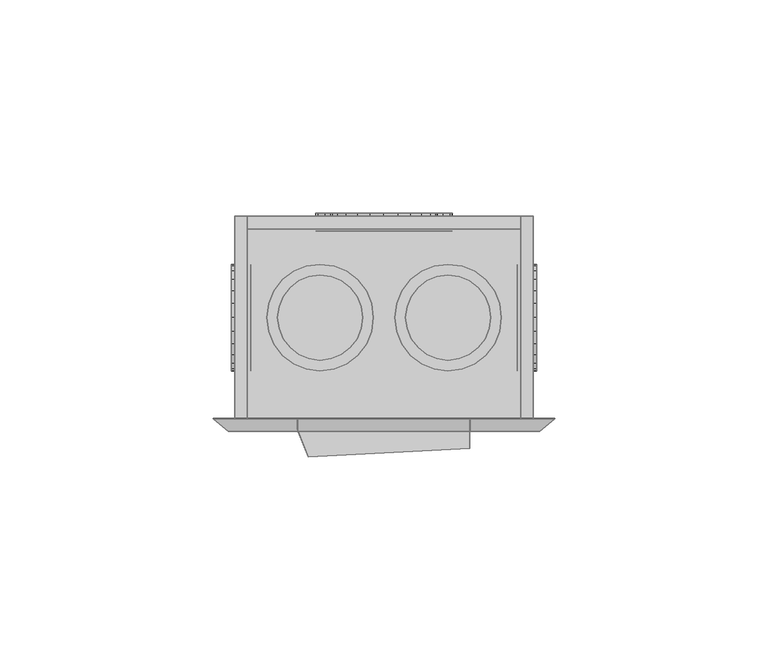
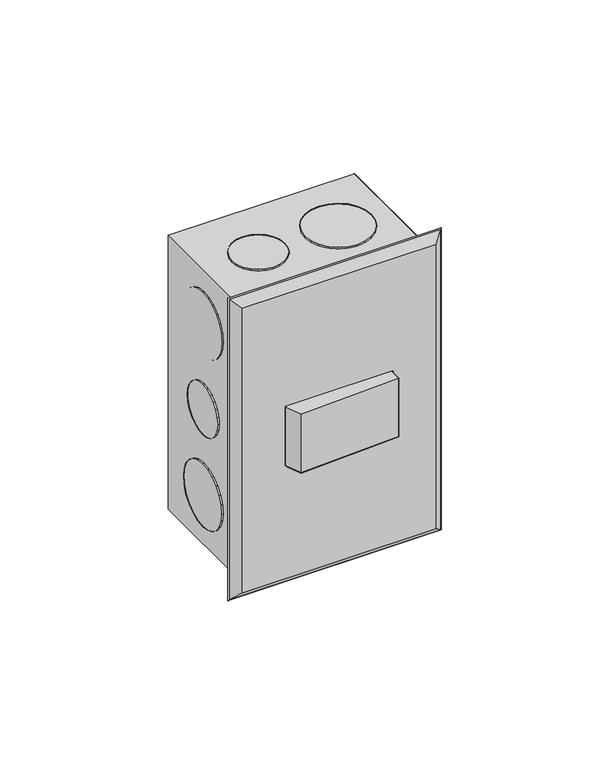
"""IFC4 building model written with IfcOpenShell, lengths in millimetres: proxy geometry,  210707 :  210707."""

from ifc_helpers import new_model, si_unit, origin, place, context, project, spatial, triangles, source, transform, mapped, element, save


def generic_models_2aa8a5d4(model_context):
    return source(origin(), model_context, "Body", "Tessellation", [
        triangles([(11129.999707, 26298.699408, 1254.3000378), (11126.9998901, 26298.699408, 1148.7000154), (11129.999707, 26298.699408, 1145.6999805), (11126.9998901, 26298.699408, 1251.2999302), (11060.0004913, 26298.699408, 1254.3000378), (11063.0003082, 26298.699408, 1251.2999302), (11060.0004913, 26298.699408, 1145.6999805), (11063.0003082, 26298.699408, 1148.7000154), (11126.9998901, 26346.2011597, 1251.2999302), (11126.9998901, 26346.2011597, 1148.7000154), (11060.0004913, 26346.2011597, 1254.3000378), (11060.0004913, 26346.2011597, 1145.6999805), (11063.0003082, 26346.2011597, 1251.2999302), (11129.999707, 26346.2011597, 1145.6999805), (11063.0003082, 26346.2011597, 1148.7000154), (11129.999707, 26346.2011597, 1254.3000378), (11126.9998901, 26343.1990173, 1251.2999302), (11063.0003082, 26343.1990173, 1148.7000154), (11126.9998901, 26343.1990173, 1148.7000154), (11063.0003082, 26343.1990173, 1251.2999302), (11108.8998322, 26342.6990479, 1191.9999887), (11103.0001923, 26342.6990479, 1186.0999855), (11106.2999908, 26342.6990479, 1188.6999722), (11110.4997345, 26342.6990479, 1195.8999687), (11099.2004242, 26342.6990479, 1184.5000105), (11110.999704, 26342.6990479, 1200.0000092), (11094.9995178, 26342.6990479, 1183.9999683), (11110.4997345, 26342.6990479, 1204.0999769), (11090.8997681, 26342.6990479, 1184.5000105), (11108.8998322, 26342.6990479, 1208.0000296), (11087.0000061, 26342.6990479, 1186.0999855), (11106.2999908, 26342.6990479, 1211.2999735), (11083.7002075, 26342.6990479, 1188.6999722), (11103.0001923, 26342.6990479, 1213.9000328), (11081.2003601, 26342.6990479, 1191.9999887), (11099.2004242, 26342.6990479, 1215.5000078), (11079.6004578, 26342.6990479, 1195.8999687), (11094.9995178, 26342.6990479, 1215.9999773), (11079.0004944, 26342.6990479, 1200.0000092), (11090.8997681, 26342.6990479, 1215.5000078), (11079.6004578, 26342.6990479, 1204.0999769), (11087.0000061, 26342.6990479, 1213.9000328), (11081.2003601, 26342.6990479, 1208.0000296), (11083.7002075, 26342.6990479, 1211.2999735), (11090.8997681, 26346.9011169, 1184.5000105), (11094.9995178, 26346.9011169, 1183.9999683), (11099.2004242, 26346.9011169, 1184.5000105), (11103.0001923, 26346.9011169, 1186.0999855), (11106.2999908, 26346.9011169, 1188.6999722), (11108.8998322, 26346.9011169, 1191.9999887), (11110.4997345, 26346.9011169, 1195.8999687), (11110.999704, 26346.9011169, 1200.0000092), (11110.4997345, 26346.9011169, 1204.0999769), (11108.8998322, 26346.9011169, 1208.0000296), (11106.2999908, 26346.9011169, 1211.2999735), (11103.0001923, 26346.9011169, 1213.9000328), (11099.2004242, 26346.9011169, 1215.5000078), (11094.9995178, 26346.9011169, 1215.9999773), (11090.8997681, 26346.9011169, 1215.5000078), (11087.0000061, 26346.9011169, 1213.9000328), (11083.7002075, 26346.9011169, 1211.2999735), (11081.2003601, 26346.9011169, 1208.0000296), (11079.6004578, 26346.9011169, 1204.0999769), (11079.0004944, 26346.9011169, 1200.0000092), (11079.6004578, 26346.9011169, 1195.8999687), (11081.2003601, 26346.9011169, 1191.9999887), (11083.7002075, 26346.9011169, 1188.6999722), (11087.0000061, 26346.9011169, 1186.0999855), (11105.9000153, 26342.6990479, 1227.8000565), (11101.300296, 26342.6990479, 1223.2000465), (11103.9001373, 26342.6990479, 1225.2000698), (11107.099942, 26342.6990479, 1230.8000187), (11098.3004791, 26342.6990479, 1221.8999805), (11107.4999176, 26342.6990479, 1233.9999687), (11094.9995178, 26342.6990479, 1221.500005), (11107.099942, 26342.6990479, 1237.2000641), (11091.7997131, 26342.6990479, 1221.8999805), (11105.9000153, 26342.6990479, 1240.3000202), (11088.7998962, 26342.6990479, 1223.2000465), (11103.9001373, 26342.6990479, 1242.800013), (11086.2000549, 26342.6990479, 1225.2000698), (11084.200177, 26342.6990479, 1227.8000565), (11101.300296, 26342.6990479, 1244.8000362), (11098.3004791, 26342.6990479, 1246.0999569), (11083.0002502, 26342.6990479, 1230.8000187), (11094.9995178, 26342.6990479, 1246.4999325), (11082.5002808, 26342.6990479, 1233.9999687), (11091.7997131, 26342.6990479, 1246.0999569), (11083.0002502, 26342.6990479, 1237.2000641), (11084.200177, 26342.6990479, 1240.3000202), (11088.7998962, 26342.6990479, 1244.8000362), (11086.2000549, 26342.6990479, 1242.800013), (11083.0002502, 26346.9011169, 1230.8000187), (11084.200177, 26346.9011169, 1227.8000565), (11086.2000549, 26346.9011169, 1225.2000698), (11088.7998962, 26346.9011169, 1223.2000465), (11091.7997131, 26346.9011169, 1221.8999805), (11094.9995178, 26346.9011169, 1221.500005), (11098.3004791, 26346.9011169, 1221.8999805), (11101.300296, 26346.9011169, 1223.2000465), (11103.9001373, 26346.9011169, 1225.2000698), (11105.9000153, 26346.9011169, 1227.8000565), (11107.099942, 26346.9011169, 1230.8000187), (11107.4999176, 26346.9011169, 1233.9999687), (11107.099942, 26346.9011169, 1237.2000641), (11105.9000153, 26346.9011169, 1240.3000202), (11103.9001373, 26346.9011169, 1242.800013), (11101.300296, 26346.9011169, 1244.8000362), (11098.3004791, 26346.9011169, 1246.0999569), (11094.9995178, 26346.9011169, 1246.4999325), (11091.7997131, 26346.9011169, 1246.0999569), (11088.7998962, 26346.9011169, 1244.8000362), (11086.2000549, 26346.9011169, 1242.800013), (11084.200177, 26346.9011169, 1240.3000202), (11083.0002502, 26346.9011169, 1237.2000641), (11082.5002808, 26346.9011169, 1233.9999687), (11101.300296, 26346.9011169, 1155.1999821), (11105.9000153, 26346.9011169, 1159.6999981), (11103.9001373, 26346.9011169, 1157.2000053), (11098.3004791, 26346.9011169, 1153.8999887), (11107.099942, 26346.9011169, 1162.8000269), (11094.9995178, 26346.9011169, 1153.5000132), (11107.4999176, 26346.9011169, 1165.9999769), (11091.7997131, 26346.9011169, 1153.8999887), (11107.099942, 26346.9011169, 1169.1999996), (11088.7998962, 26346.9011169, 1155.1999821), (11105.9000153, 26346.9011169, 1172.2000345), (11086.2000549, 26346.9011169, 1157.2000053), (11103.9001373, 26346.9011169, 1174.8000212), (11084.200177, 26346.9011169, 1159.6999981), (11101.300296, 26346.9011169, 1176.7999718), (11083.0002502, 26346.9011169, 1162.8000269), (11098.3004791, 26346.9011169, 1178.0999651), (11094.9995178, 26346.9011169, 1178.5000134), (11082.5002808, 26346.9011169, 1165.9999769), (11083.0002502, 26346.9011169, 1169.1999996), (11091.7997131, 26346.9011169, 1178.0999651), (11084.200177, 26346.9011169, 1172.2000345), (11088.7998962, 26346.9011169, 1176.7999718), (11086.2000549, 26346.9011169, 1174.8000212), (11098.3004791, 26342.6990479, 1178.0999651), (11094.9995178, 26342.6990479, 1178.5000134), (11101.300296, 26342.6990479, 1176.7999718), (11103.9001373, 26342.6990479, 1174.8000212), (11105.9000153, 26342.6990479, 1172.2000345), (11107.099942, 26342.6990479, 1169.1999996), (11107.4999176, 26342.6990479, 1165.9999769), (11107.099942, 26342.6990479, 1162.8000269), (11105.9000153, 26342.6990479, 1159.6999981), (11103.9001373, 26342.6990479, 1157.2000053), (11101.300296, 26342.6990479, 1155.1999821), (11098.3004791, 26342.6990479, 1153.8999887), (11094.9995178, 26342.6990479, 1153.5000132), (11091.7997131, 26342.6990479, 1153.8999887), (11088.7998962, 26342.6990479, 1155.1999821), (11086.2000549, 26342.6990479, 1157.2000053), (11084.200177, 26342.6990479, 1159.6999981), (11083.0002502, 26342.6990479, 1162.8000269), (11082.5002808, 26342.6990479, 1165.9999769), (11083.0002502, 26342.6990479, 1169.1999996), (11084.200177, 26342.6990479, 1172.2000345), (11086.2000549, 26342.6990479, 1174.8000212), (11088.7998962, 26342.6990479, 1176.7999718), (11091.7997131, 26342.6990479, 1178.0999651), (11126.199939, 26327.3999817, 1191.3000315), (11126.199939, 26331.0997559, 1195.0000237), (11126.199939, 26329.4998535, 1192.9000065), (11126.199939, 26332.0996948, 1197.4000225), (11126.199939, 26325.0001282, 1190.3000198), (11126.199939, 26332.3996765, 1200.0000092), (11126.199939, 26322.4002869, 1189.9999655), (11126.199939, 26319.9004395, 1190.3000198), (11126.199939, 26332.0996948, 1202.5999958), (11126.199939, 26331.0997559, 1204.9999947), (11126.199939, 26317.400592, 1191.3000315), (11126.199939, 26329.4998535, 1207.1000118), (11126.199939, 26315.4007141, 1192.9000065), (11126.199939, 26313.8008118, 1195.0000237), (11126.199939, 26327.3999817, 1208.6999868), (11126.199939, 26312.8008728, 1197.4000225), (11126.199939, 26325.0001282, 1209.6999985), (11126.199939, 26312.4008972, 1200.0000092), (11126.199939, 26322.4002869, 1209.9999802), (11126.199939, 26312.8008728, 1202.5999958), (11126.199939, 26319.9004395, 1209.6999985), (11126.199939, 26317.400592, 1208.6999868), (11126.199939, 26313.8008118, 1204.9999947), (11126.199939, 26315.4007141, 1207.1000118), (11130.7996582, 26322.4002869, 1189.9999655), (11130.7996582, 26325.0001282, 1190.3000198), (11130.7996582, 26319.9004395, 1190.3000198), (11130.7996582, 26317.400592, 1191.3000315), (11130.7996582, 26315.4007141, 1192.9000065), (11130.7996582, 26313.8008118, 1195.0000237), (11130.7996582, 26312.8008728, 1197.4000225), (11130.7996582, 26312.4008972, 1200.0000092), (11130.7996582, 26312.8008728, 1202.5999958), (11130.7996582, 26313.8008118, 1204.9999947), (11130.7996582, 26315.4007141, 1207.1000118), (11130.7996582, 26317.400592, 1208.6999868), (11130.7996582, 26319.9004395, 1209.6999985), (11130.7996582, 26322.4002869, 1209.9999802), (11130.7996582, 26325.0001282, 1209.6999985), (11130.7996582, 26327.3999817, 1208.6999868), (11130.7996582, 26329.4998535, 1207.1000118), (11130.7996582, 26331.0997559, 1204.9999947), (11130.7996582, 26332.0996948, 1202.5999958), (11130.7996582, 26332.3996765, 1200.0000092), (11130.7996582, 26332.0996948, 1197.4000225), (11130.7996582, 26331.0997559, 1195.0000237), (11130.7996582, 26329.4998535, 1192.9000065), (11130.7996582, 26327.3999817, 1191.3000315), (11126.199939, 26328.6999023, 1223.2000465), (11126.199939, 26333.2996216, 1227.8000565), (11126.199939, 26331.2997437, 1225.2000698), (11126.199939, 26325.7000854, 1221.8999805), (11126.199939, 26334.4995483, 1230.8000187), (11126.199939, 26334.8995239, 1233.9999687), (11126.199939, 26322.4002869, 1221.500005), (11126.199939, 26319.2004822, 1221.8999805), (11126.199939, 26334.4995483, 1237.2000641), (11126.199939, 26333.2996216, 1240.3000202), (11126.199939, 26316.2006653, 1223.2000465), (11126.199939, 26313.600824, 1225.2000698), (11126.199939, 26331.2997437, 1242.800013), (11126.199939, 26311.600946, 1227.8000565), (11126.199939, 26328.6999023, 1244.8000362), (11126.199939, 26310.4010193, 1230.8000187), (11126.199939, 26325.7000854, 1246.0999569), (11126.199939, 26309.9010498, 1233.9999687), (11126.199939, 26322.4002869, 1246.4999325), (11126.199939, 26310.4010193, 1237.2000641), (11126.199939, 26319.2004822, 1246.0999569), (11126.199939, 26311.600946, 1240.3000202), (11126.199939, 26316.2006653, 1244.8000362), (11126.199939, 26313.600824, 1242.800013), (11130.7996582, 26322.4002869, 1221.500005), (11130.7996582, 26325.7000854, 1221.8999805), (11130.7996582, 26319.2004822, 1221.8999805), (11130.7996582, 26316.2006653, 1223.2000465), (11130.7996582, 26313.600824, 1225.2000698), (11130.7996582, 26311.600946, 1227.8000565), (11130.7996582, 26310.4010193, 1230.8000187), (11130.7996582, 26309.9010498, 1233.9999687), (11130.7996582, 26310.4010193, 1237.2000641), (11130.7996582, 26311.600946, 1240.3000202), (11130.7996582, 26313.600824, 1242.800013), (11130.7996582, 26316.2006653, 1244.8000362), (11130.7996582, 26319.2004822, 1246.0999569), (11130.7996582, 26322.4002869, 1246.4999325), (11130.7996582, 26325.7000854, 1246.0999569), (11130.7996582, 26328.6999023, 1244.8000362), (11130.7996582, 26331.2997437, 1242.800013), (11130.7996582, 26333.2996216, 1240.3000202), (11130.7996582, 26334.4995483, 1237.2000641), (11130.7996582, 26334.8995239, 1233.9999687), (11130.7996582, 26334.4995483, 1230.8000187), (11130.7996582, 26333.2996216, 1227.8000565), (11130.7996582, 26331.2997437, 1225.2000698), (11130.7996582, 26328.6999023, 1223.2000465), (11130.7996582, 26333.2996216, 1159.6999981), (11130.7996582, 26328.6999023, 1155.1999821), (11130.7996582, 26331.2997437, 1157.2000053), (11130.7996582, 26334.4995483, 1162.8000269), (11130.7996582, 26325.7000854, 1153.8999887), (11130.7996582, 26334.8995239, 1165.9999769), (11130.7996582, 26322.4002869, 1153.5000132), (11130.7996582, 26334.4995483, 1169.1999996), (11130.7996582, 26319.2004822, 1153.8999887), (11130.7996582, 26333.2996216, 1172.2000345), (11130.7996582, 26316.2006653, 1155.1999821), (11130.7996582, 26331.2997437, 1174.8000212), (11130.7996582, 26313.600824, 1157.2000053), (11130.7996582, 26328.6999023, 1176.7999718), (11130.7996582, 26311.600946, 1159.6999981), (11130.7996582, 26325.7000854, 1178.0999651), (11130.7996582, 26310.4010193, 1162.8000269), (11130.7996582, 26322.4002869, 1178.5000134), (11130.7996582, 26309.9010498, 1165.9999769), (11130.7996582, 26319.2004822, 1178.0999651), (11130.7996582, 26310.4010193, 1169.1999996), (11130.7996582, 26316.2006653, 1176.7999718), (11130.7996582, 26311.600946, 1172.2000345), (11130.7996582, 26313.600824, 1174.8000212), (11126.199939, 26325.7000854, 1178.0999651), (11126.199939, 26322.4002869, 1178.5000134), (11126.199939, 26319.2004822, 1178.0999651), (11126.199939, 26316.2006653, 1176.7999718), (11126.199939, 26313.600824, 1174.8000212), (11126.199939, 26311.600946, 1172.2000345), (11126.199939, 26310.4010193, 1169.1999996), (11126.199939, 26309.9010498, 1165.9999769), (11126.199939, 26310.4010193, 1162.8000269), (11126.199939, 26311.600946, 1159.6999981), (11126.199939, 26313.600824, 1157.2000053), (11126.199939, 26316.2006653, 1155.1999821), (11126.199939, 26319.2004822, 1153.8999887), (11126.199939, 26322.4002869, 1153.5000132), (11126.199939, 26325.7000854, 1153.8999887), (11126.199939, 26328.6999023, 1155.1999821), (11126.199939, 26331.2997437, 1157.2000053), (11126.199939, 26333.2996216, 1159.6999981), (11126.199939, 26334.4995483, 1162.8000269), (11126.199939, 26334.8995239, 1165.9999769), (11126.199939, 26334.4995483, 1169.1999996), (11126.199939, 26333.2996216, 1172.2000345), (11126.199939, 26331.2997437, 1174.8000212), (11126.199939, 26328.6999023, 1176.7999718), (11063.8002594, 26331.0997559, 1195.0000237), (11063.8002594, 26327.3999817, 1191.3000315), (11063.8002594, 26329.4998535, 1192.9000065), (11063.8002594, 26332.0996948, 1197.4000225), (11063.8002594, 26325.0001282, 1190.3000198), (11063.8002594, 26332.3996765, 1200.0000092), (11063.8002594, 26322.4002869, 1189.9999655), (11063.8002594, 26332.0996948, 1202.5999958), (11063.8002594, 26319.9004395, 1190.3000198), (11063.8002594, 26331.0997559, 1204.9999947), (11063.8002594, 26317.400592, 1191.3000315), (11063.8002594, 26329.4998535, 1207.1000118), (11063.8002594, 26315.4007141, 1192.9000065), (11063.8002594, 26327.3999817, 1208.6999868), (11063.8002594, 26313.8008118, 1195.0000237), (11063.8002594, 26325.0001282, 1209.6999985), (11063.8002594, 26312.8008728, 1197.4000225), (11063.8002594, 26312.4008972, 1200.0000092), (11063.8002594, 26322.4002869, 1209.9999802), (11063.8002594, 26319.9004395, 1209.6999985), (11063.8002594, 26312.8008728, 1202.5999958), (11063.8002594, 26317.400592, 1208.6999868), (11063.8002594, 26313.8008118, 1204.9999947), (11063.8002594, 26315.4007141, 1207.1000118), (11059.2005402, 26325.0001282, 1209.6999985), (11059.2005402, 26322.4002869, 1209.9999802), (11059.2005402, 26319.9004395, 1209.6999985), (11059.2005402, 26317.400592, 1208.6999868), (11059.2005402, 26315.4007141, 1207.1000118), (11059.2005402, 26313.8008118, 1204.9999947), (11059.2005402, 26312.8008728, 1202.5999958), (11059.2005402, 26312.4008972, 1200.0000092), (11059.2005402, 26312.8008728, 1197.4000225), (11059.2005402, 26313.8008118, 1195.0000237), (11059.2005402, 26315.4007141, 1192.9000065), (11059.2005402, 26317.400592, 1191.3000315), (11059.2005402, 26319.9004395, 1190.3000198), (11059.2005402, 26322.4002869, 1189.9999655), (11059.2005402, 26325.0001282, 1190.3000198), (11059.2005402, 26327.3999817, 1191.3000315), (11059.2005402, 26329.4998535, 1192.9000065), (11059.2005402, 26331.0997559, 1195.0000237), (11059.2005402, 26332.0996948, 1197.4000225), (11059.2005402, 26332.3996765, 1200.0000092), (11059.2005402, 26332.0996948, 1202.5999958), (11059.2005402, 26331.0997559, 1204.9999947), (11059.2005402, 26329.4998535, 1207.1000118), (11059.2005402, 26327.3999817, 1208.6999868), (11063.8002594, 26333.2996216, 1159.6999981), (11063.8002594, 26328.6999023, 1155.1999821), (11063.8002594, 26331.2997437, 1157.2000053), (11063.8002594, 26334.4995483, 1162.8000269), (11063.8002594, 26325.7000854, 1153.8999887), (11063.8002594, 26334.8995239, 1165.9999769), (11063.8002594, 26322.4002869, 1153.5000132), (11063.8002594, 26334.4995483, 1169.1999996), (11063.8002594, 26319.2004822, 1153.8999887), (11063.8002594, 26333.2996216, 1172.2000345), (11063.8002594, 26316.2006653, 1155.1999821), (11063.8002594, 26331.2997437, 1174.8000212), (11063.8002594, 26313.600824, 1157.2000053), (11063.8002594, 26328.6999023, 1176.7999718), (11063.8002594, 26311.600946, 1159.6999981), (11063.8002594, 26325.7000854, 1178.0999651), (11063.8002594, 26310.4010193, 1162.8000269), (11063.8002594, 26322.4002869, 1178.5000134), (11063.8002594, 26309.9010498, 1165.9999769), (11063.8002594, 26319.2004822, 1178.0999651), (11063.8002594, 26310.4010193, 1169.1999996), (11063.8002594, 26316.2006653, 1176.7999718), (11063.8002594, 26311.600946, 1172.2000345), (11063.8002594, 26313.600824, 1174.8000212), (11059.2005402, 26325.7000854, 1178.0999651), (11059.2005402, 26322.4002869, 1178.5000134), (11059.2005402, 26319.2004822, 1178.0999651), (11059.2005402, 26316.2006653, 1176.7999718), (11059.2005402, 26313.600824, 1174.8000212), (11059.2005402, 26311.600946, 1172.2000345), (11059.2005402, 26310.4010193, 1169.1999996), (11059.2005402, 26309.9010498, 1165.9999769), (11059.2005402, 26310.4010193, 1162.8000269), (11059.2005402, 26311.600946, 1159.6999981), (11059.2005402, 26313.600824, 1157.2000053), (11059.2005402, 26316.2006653, 1155.1999821), (11059.2005402, 26319.2004822, 1153.8999887), (11059.2005402, 26322.4002869, 1153.5000132), (11059.2005402, 26325.7000854, 1153.8999887), (11059.2005402, 26328.6999023, 1155.1999821), (11059.2005402, 26331.2997437, 1157.2000053), (11059.2005402, 26333.2996216, 1159.6999981), (11059.2005402, 26334.4995483, 1162.8000269), (11059.2005402, 26334.8995239, 1165.9999769), (11059.2005402, 26334.4995483, 1169.1999996), (11059.2005402, 26333.2996216, 1172.2000345), (11059.2005402, 26331.2997437, 1174.8000212), (11059.2005402, 26328.6999023, 1176.7999718), (11059.2005402, 26328.6999023, 1223.2000465), (11059.2005402, 26333.2996216, 1227.8000565), (11059.2005402, 26331.2997437, 1225.2000698), (11059.2005402, 26325.7000854, 1221.8999805), (11059.2005402, 26334.4995483, 1230.8000187), (11059.2005402, 26334.8995239, 1233.9999687), (11059.2005402, 26322.4002869, 1221.500005), (11059.2005402, 26319.2004822, 1221.8999805), (11059.2005402, 26334.4995483, 1237.2000641), (11059.2005402, 26333.2996216, 1240.3000202), (11059.2005402, 26316.2006653, 1223.2000465), (11059.2005402, 26313.600824, 1225.2000698), (11059.2005402, 26331.2997437, 1242.800013), (11059.2005402, 26311.600946, 1227.8000565), (11059.2005402, 26328.6999023, 1244.8000362), (11059.2005402, 26310.4010193, 1230.8000187), (11059.2005402, 26325.7000854, 1246.0999569), (11059.2005402, 26309.9010498, 1233.9999687), (11059.2005402, 26322.4002869, 1246.4999325), (11059.2005402, 26310.4010193, 1237.2000641), (11059.2005402, 26319.2004822, 1246.0999569), (11059.2005402, 26311.600946, 1240.3000202), (11059.2005402, 26316.2006653, 1244.8000362), (11059.2005402, 26313.600824, 1242.800013), (11063.8002594, 26322.4002869, 1221.500005), (11063.8002594, 26325.7000854, 1221.8999805), (11063.8002594, 26319.2004822, 1221.8999805), (11063.8002594, 26316.2006653, 1223.2000465), (11063.8002594, 26313.600824, 1225.2000698), (11063.8002594, 26311.600946, 1227.8000565), (11063.8002594, 26310.4010193, 1230.8000187), (11063.8002594, 26309.9010498, 1233.9999687), (11063.8002594, 26310.4010193, 1237.2000641), (11063.8002594, 26311.600946, 1240.3000202), (11063.8002594, 26313.600824, 1242.800013), (11063.8002594, 26316.2006653, 1244.8000362), (11063.8002594, 26319.2004822, 1246.0999569), (11063.8002594, 26322.4002869, 1246.4999325), (11063.8002594, 26325.7000854, 1246.0999569), (11063.8002594, 26328.6999023, 1244.8000362), (11063.8002594, 26331.2997437, 1242.800013), (11063.8002594, 26333.2996216, 1240.3000202), (11063.8002594, 26334.4995483, 1237.2000641), (11063.8002594, 26334.8995239, 1233.9999687), (11063.8002594, 26334.4995483, 1230.8000187), (11063.8002594, 26333.2996216, 1227.8000565), (11063.8002594, 26331.2997437, 1225.2000698), (11063.8002594, 26328.6999023, 1223.2000465), (11120.9002625, 26328.6999023, 1250.9999485), (11116.3005432, 26333.2996216, 1250.9999485), (11118.9003845, 26331.2997437, 1250.9999485), (11122.1001892, 26325.7000854, 1250.9999485), (11113.2995636, 26334.4995483, 1250.9999485), (11109.999765, 26334.8995239, 1250.9999485), (11122.5001648, 26322.4002869, 1250.9999485), (11122.1001892, 26319.2004822, 1250.9999485), (11106.7999603, 26334.4995483, 1250.9999485), (11103.8001434, 26333.2996216, 1250.9999485), (11120.9002625, 26316.2006653, 1250.9999485), (11118.9003845, 26313.600824, 1250.9999485), (11101.2003021, 26331.2997437, 1250.9999485), (11099.2004242, 26328.6999023, 1250.9999485), (11116.3005432, 26311.600946, 1250.9999485), (11113.2995636, 26310.4010193, 1250.9999485), (11098.0004974, 26325.7000854, 1250.9999485), (11109.999765, 26309.9010498, 1250.9999485), (11097.500528, 26322.4002869, 1250.9999485), (11106.7999603, 26310.4010193, 1250.9999485), (11098.0004974, 26319.2004822, 1250.9999485), (11099.2004242, 26316.2006653, 1250.9999485), (11103.8001434, 26311.600946, 1250.9999485), (11101.2003021, 26313.600824, 1250.9999485), (11109.999765, 26334.8995239, 1255.1999828), (11106.7999603, 26334.4995483, 1255.1999828), (11113.2995636, 26334.4995483, 1255.1999828), (11116.3005432, 26333.2996216, 1255.1999828), (11118.9003845, 26331.2997437, 1255.1999828), (11120.9002625, 26328.6999023, 1255.1999828), (11122.1001892, 26325.7000854, 1255.1999828), (11122.5001648, 26322.4002869, 1255.1999828), (11122.1001892, 26319.2004822, 1255.1999828), (11120.9002625, 26316.2006653, 1255.1999828), (11118.9003845, 26313.600824, 1255.1999828), (11116.3005432, 26311.600946, 1255.1999828), (11113.2995636, 26310.4010193, 1255.1999828), (11109.999765, 26309.9010498, 1255.1999828), (11106.7999603, 26310.4010193, 1255.1999828), (11103.8001434, 26311.600946, 1255.1999828), (11101.2003021, 26313.600824, 1255.1999828), (11099.2004242, 26316.2006653, 1255.1999828), (11098.0004974, 26319.2004822, 1255.1999828), (11097.500528, 26322.4002869, 1255.1999828), (11098.0004974, 26325.7000854, 1255.1999828), (11099.2004242, 26328.6999023, 1255.1999828), (11101.2003021, 26331.2997437, 1255.1999828), (11103.8001434, 26333.2996216, 1255.1999828), (11088.6999023, 26327.3999817, 1250.9999485), (11085.0001282, 26331.0997559, 1250.9999485), (11087.1, 26329.4998535, 1250.9999485), (11082.6002747, 26332.0996948, 1250.9999485), (11089.6998413, 26325.0001282, 1250.9999485), (11080.0004333, 26332.3996765, 1250.9999485), (11089.999823, 26322.4002869, 1250.9999485), (11089.6998413, 26319.9004395, 1250.9999485), (11077.3994293, 26332.0996948, 1250.9999485), (11074.9995758, 26331.0997559, 1250.9999485), (11088.6999023, 26317.400592, 1250.9999485), (11072.9996979, 26329.4998535, 1250.9999485), (11087.1, 26315.4007141, 1250.9999485), (11085.0001282, 26313.8008118, 1250.9999485), (11071.3997955, 26327.3999817, 1250.9999485), (11070.3998566, 26325.0001282, 1250.9999485), (11082.6002747, 26312.8008728, 1250.9999485), (11080.0004333, 26312.4008972, 1250.9999485), (11069.999881, 26322.4002869, 1250.9999485), (11077.3994293, 26312.8008728, 1250.9999485), (11070.3998566, 26319.9004395, 1250.9999485), (11074.9995758, 26313.8008118, 1250.9999485), (11071.3997955, 26317.400592, 1250.9999485), (11072.9996979, 26315.4007141, 1250.9999485), (11077.3994293, 26332.0996948, 1255.1999828), (11074.9995758, 26331.0997559, 1255.1999828), (11080.0004333, 26332.3996765, 1255.1999828), (11082.6002747, 26332.0996948, 1255.1999828), (11085.0001282, 26331.0997559, 1255.1999828), (11087.1, 26329.4998535, 1255.1999828), (11088.6999023, 26327.3999817, 1255.1999828), (11089.6998413, 26325.0001282, 1255.1999828), (11089.999823, 26322.4002869, 1255.1999828), (11089.6998413, 26319.9004395, 1255.1999828), (11088.6999023, 26317.400592, 1255.1999828), (11087.1, 26315.4007141, 1255.1999828), (11085.0001282, 26313.8008118, 1255.1999828), (11082.6002747, 26312.8008728, 1255.1999828), (11080.0004333, 26312.4008972, 1255.1999828), (11077.3994293, 26312.8008728, 1255.1999828), (11074.9995758, 26313.8008118, 1255.1999828), (11072.9996979, 26315.4007141, 1255.1999828), (11071.3997955, 26317.400592, 1255.1999828), (11070.3998566, 26319.9004395, 1255.1999828), (11069.999881, 26322.4002869, 1255.1999828), (11070.3998566, 26325.0001282, 1255.1999828), (11071.3997955, 26327.3999817, 1255.1999828), (11072.9996979, 26329.4998535, 1255.1999828), (11118.7003967, 26327.3999817, 1144.8000355), (11114.9994598, 26331.0997559, 1144.8000355), (11117.1004944, 26329.4998535, 1144.8000355), (11112.5996063, 26332.0996948, 1144.8000355), (11119.7003357, 26325.0001282, 1144.8000355), (11109.999765, 26332.3996765, 1144.8000355), (11120.0003174, 26322.4002869, 1144.8000355), (11119.7003357, 26319.9004395, 1144.8000355), (11107.3999237, 26332.0996948, 1144.8000355), (11105.0000702, 26331.0997559, 1144.8000355), (11118.7003967, 26317.400592, 1144.8000355), (11103.0001923, 26329.4998535, 1144.8000355), (11117.1004944, 26315.4007141, 1144.8000355), (11114.9994598, 26313.8008118, 1144.8000355), (11101.4002899, 26327.3999817, 1144.8000355), (11100.400351, 26325.0001282, 1144.8000355), (11112.5996063, 26312.8008728, 1144.8000355), (11109.999765, 26312.4008972, 1144.8000355), (11100.0003754, 26322.4002869, 1144.8000355), (11107.3999237, 26312.8008728, 1144.8000355), (11100.400351, 26319.9004395, 1144.8000355), (11105.0000702, 26313.8008118, 1144.8000355), (11101.4002899, 26317.400592, 1144.8000355), (11103.0001923, 26315.4007141, 1144.8000355), (11112.5996063, 26332.0996948, 1149.099991), (11109.999765, 26332.3996765, 1149.099991), (11114.9994598, 26331.0997559, 1149.099991), (11117.1004944, 26329.4998535, 1149.099991), (11118.7003967, 26327.3999817, 1149.099991), (11119.7003357, 26325.0001282, 1149.099991), (11120.0003174, 26322.4002869, 1149.099991), (11119.7003357, 26319.9004395, 1149.099991), (11118.7003967, 26317.400592, 1149.099991), (11117.1004944, 26315.4007141, 1149.099991), (11114.9994598, 26313.8008118, 1149.099991), (11112.5996063, 26312.8008728, 1149.099991), (11109.999765, 26312.4008972, 1149.099991), (11107.3999237, 26312.8008728, 1149.099991), (11105.0000702, 26313.8008118, 1149.099991), (11103.0001923, 26315.4007141, 1149.099991), (11101.4002899, 26317.400592, 1149.099991), (11100.400351, 26319.9004395, 1149.099991), (11100.0003754, 26322.4002869, 1149.099991), (11100.400351, 26325.0001282, 1149.099991), (11101.4002899, 26327.3999817, 1149.099991), (11103.0001923, 26329.4998535, 1149.099991), (11105.0000702, 26331.0997559, 1149.099991), (11107.3999237, 26332.0996948, 1149.099991), (11090.8997681, 26328.6999023, 1144.8000355), (11086.3000488, 26333.2996216, 1144.8000355), (11088.8998901, 26331.2997437, 1144.8000355), (11092.0996948, 26325.7000854, 1144.8000355), (11083.3002319, 26334.4995483, 1144.8000355), (11080.0004333, 26334.8995239, 1144.8000355), (11092.4996704, 26322.4002869, 1144.8000355), (11092.0996948, 26319.2004822, 1144.8000355), (11076.7994659, 26334.4995483, 1144.8000355), (11073.799649, 26333.2996216, 1144.8000355), (11090.8997681, 26316.2006653, 1144.8000355), (11088.8998901, 26313.600824, 1144.8000355), (11071.1998077, 26331.2997437, 1144.8000355), (11069.1999298, 26328.6999023, 1144.8000355), (11086.3000488, 26311.600946, 1144.8000355), (11083.3002319, 26310.4010193, 1144.8000355), (11068.0000031, 26325.7000854, 1144.8000355), (11080.0004333, 26309.9010498, 1144.8000355), (11067.5000336, 26322.4002869, 1144.8000355), (11076.7994659, 26310.4010193, 1144.8000355), (11068.0000031, 26319.2004822, 1144.8000355), (11069.1999298, 26316.2006653, 1144.8000355), (11073.799649, 26311.600946, 1144.8000355), (11071.1998077, 26313.600824, 1144.8000355), (11076.7994659, 26334.4995483, 1149.099991), (11073.799649, 26333.2996216, 1149.099991), (11080.0004333, 26334.8995239, 1149.099991), (11083.3002319, 26334.4995483, 1149.099991), (11086.3000488, 26333.2996216, 1149.099991), (11088.8998901, 26331.2997437, 1149.099991), (11090.8997681, 26328.6999023, 1149.099991), (11092.0996948, 26325.7000854, 1149.099991), (11092.4996704, 26322.4002869, 1149.099991), (11092.0996948, 26319.2004822, 1149.099991), (11090.8997681, 26316.2006653, 1149.099991), (11088.8998901, 26313.600824, 1149.099991), (11086.3000488, 26311.600946, 1149.099991), (11083.3002319, 26310.4010193, 1149.099991), (11080.0004333, 26309.9010498, 1149.099991), (11076.7994659, 26310.4010193, 1149.099991), (11073.799649, 26311.600946, 1149.099991), (11071.1998077, 26313.600824, 1149.099991), (11069.1999298, 26316.2006653, 1149.099991), (11068.0000031, 26319.2004822, 1149.099991), (11067.5000336, 26322.4002869, 1149.099991), (11068.0000031, 26325.7000854, 1149.099991), (11069.1999298, 26328.6999023, 1149.099991), (11071.1998077, 26331.2997437, 1149.099991), (11054.9996338, 26298.699408, 1139.9999651), (11115.1994476, 26298.699408, 1188.2999966), (11135.0005646, 26298.699408, 1139.9999651), (11074.799588, 26298.699408, 1188.2999966), (11054.9996338, 26298.699408, 1259.9999805), (11074.799588, 26298.699408, 1211.7000217), (11135.0005646, 26298.699408, 1259.9999805), (11115.1994476, 26298.699408, 1211.7000217), (11074.799588, 26295.6995911, 1188.2999966), (11074.799588, 26295.6995911, 1211.7000217), (11115.1994476, 26295.6995911, 1188.2999966), (11115.1994476, 26295.6995911, 1211.7000217), (11131.4996155, 26295.6995911, 1143.4999695), (11131.4996155, 26295.6995911, 1256.5000488), (11058.4994202, 26295.6995911, 1143.4999695), (11058.4994202, 26295.6995911, 1256.5000488), (11115.0994537, 26291.6998352, 1188.1000088), (11074.6995941, 26298.699408, 1188.1000088), (11115.0994537, 26298.699408, 1188.1000088), (11077.2994354, 26289.7999512, 1188.1000088), (11074.6995941, 26296.1995605, 1188.1000088), (11115.0994537, 26298.699408, 1211.500034), (11074.6995941, 26298.699408, 1211.500034), (11115.0994537, 26291.6998352, 1211.500034), (11077.2994354, 26289.7999512, 1211.500034), (11074.6995941, 26296.1995605, 1211.500034)], [[1, 2, 3], [2, 1, 4], [5, 4, 1], [4, 5, 6], [3, 2, 7], [7, 2, 8], [7, 8, 6], [7, 6, 5], [2, 9, 10], [9, 2, 4], [7, 11, 12], [11, 7, 5], [4, 13, 9], [13, 4, 6], [3, 12, 14], [12, 3, 7], [13, 8, 15], [8, 13, 6], [16, 3, 14], [3, 16, 1], [15, 2, 10], [2, 15, 8], [11, 1, 16], [1, 11, 5], [12, 10, 14], [10, 12, 15], [11, 15, 12], [15, 11, 13], [14, 10, 16], [16, 10, 9], [16, 9, 13], [16, 13, 11], [17, 18, 19], [18, 17, 20], [18, 13, 15], [13, 18, 20], [19, 15, 10], [15, 19, 18], [9, 19, 10], [19, 9, 17], [13, 17, 9], [17, 13, 20], [15, 9, 10], [9, 15, 13], [21, 22, 23], [22, 21, 24], [25, 22, 24], [25, 24, 26], [27, 25, 26], [27, 26, 28], [29, 27, 28], [29, 28, 30], [31, 29, 30], [31, 30, 32], [31, 32, 33], [33, 32, 34], [33, 34, 35], [35, 34, 36], [35, 36, 37], [37, 36, 38], [37, 38, 39], [39, 38, 40], [39, 40, 41], [41, 40, 42], [41, 42, 43], [43, 42, 44], [27, 45, 46], [45, 27, 29], [25, 46, 47], [46, 25, 27], [22, 47, 48], [47, 22, 25], [23, 48, 49], [48, 23, 22], [50, 23, 49], [23, 50, 21], [51, 21, 50], [21, 51, 24], [52, 24, 51], [24, 52, 26], [53, 26, 52], [26, 53, 28], [54, 28, 53], [28, 54, 30], [55, 30, 54], [30, 55, 32], [56, 32, 55], [32, 56, 34], [57, 34, 56], [34, 57, 36], [58, 36, 57], [36, 58, 38], [59, 38, 58], [38, 59, 40], [60, 40, 59], [40, 60, 42], [61, 42, 60], [42, 61, 44], [43, 61, 62], [61, 43, 44], [41, 62, 63], [62, 41, 43], [39, 63, 64], [63, 39, 41], [37, 64, 65], [64, 37, 39], [35, 65, 66], [65, 35, 37], [33, 66, 67], [66, 33, 35], [31, 67, 68], [67, 31, 33], [29, 68, 45], [68, 29, 31], [48, 50, 49], [50, 48, 47], [51, 50, 47], [51, 47, 46], [52, 51, 46], [52, 46, 45], [53, 52, 45], [53, 45, 68], [54, 53, 68], [54, 68, 67], [54, 67, 55], [55, 67, 66], [55, 66, 56], [56, 66, 65], [56, 65, 57], [57, 65, 64], [57, 64, 58], [58, 64, 63], [58, 63, 59], [59, 63, 62], [59, 62, 60], [60, 62, 61], [69, 70, 71], [70, 69, 72], [73, 70, 72], [73, 72, 74], [75, 73, 74], [75, 74, 76], [77, 75, 76], [77, 76, 78], [79, 77, 78], [79, 78, 80], [81, 79, 80], [81, 80, 82], [82, 80, 83], [82, 83, 84], [82, 84, 85], [85, 84, 86], [85, 86, 87], [87, 86, 88], [87, 88, 89], [89, 88, 90], [90, 88, 91], [90, 91, 92], [82, 93, 94], [93, 82, 85], [81, 94, 95], [94, 81, 82], [79, 95, 96], [95, 79, 81], [77, 96, 97], [96, 77, 79], [75, 97, 98], [97, 75, 77], [73, 98, 99], [98, 73, 75], [70, 99, 100], [99, 70, 73], [71, 100, 101], [100, 71, 70], [102, 71, 101], [71, 102, 69], [103, 69, 102], [69, 103, 72], [104, 72, 103], [72, 104, 74], [105, 74, 104], [74, 105, 76], [106, 76, 105], [76, 106, 78], [107, 78, 106], [78, 107, 80], [108, 80, 107], [80, 108, 83], [109, 83, 108], [83, 109, 84], [110, 84, 109], [84, 110, 86], [111, 86, 110], [86, 111, 88], [112, 88, 111], [88, 112, 91], [113, 91, 112], [91, 113, 92], [90, 113, 114], [113, 90, 92], [89, 114, 115], [114, 89, 90], [87, 115, 116], [115, 87, 89], [85, 116, 93], [116, 85, 87], [100, 102, 101], [102, 100, 99], [103, 102, 99], [103, 99, 98], [104, 103, 98], [104, 98, 97], [105, 104, 97], [106, 105, 97], [106, 97, 96], [106, 96, 95], [106, 95, 107], [107, 95, 94], [107, 94, 108], [108, 94, 93], [108, 93, 109], [109, 93, 116], [109, 116, 110], [110, 116, 115], [110, 115, 111], [111, 115, 114], [111, 114, 112], [112, 114, 113], [117, 118, 119], [118, 117, 120], [121, 118, 120], [121, 120, 122], [123, 121, 122], [123, 122, 124], [125, 123, 124], [125, 124, 126], [127, 125, 126], [127, 126, 128], [127, 128, 129], [129, 128, 130], [129, 130, 131], [131, 130, 132], [131, 132, 133], [133, 132, 134], [134, 132, 135], [134, 135, 136], [134, 136, 137], [137, 136, 138], [137, 138, 139], [139, 138, 140], [134, 141, 133], [141, 134, 142], [133, 143, 131], [143, 133, 141], [131, 144, 129], [144, 131, 143], [129, 145, 127], [145, 129, 144], [127, 146, 125], [146, 127, 145], [125, 147, 123], [147, 125, 146], [123, 148, 121], [148, 123, 147], [121, 149, 118], [149, 121, 148], [118, 150, 119], [150, 118, 149], [150, 117, 119], [117, 150, 151], [151, 120, 117], [120, 151, 152], [152, 122, 120], [122, 152, 153], [153, 124, 122], [124, 153, 154], [154, 126, 124], [126, 154, 155], [155, 128, 126], [128, 155, 156], [156, 130, 128], [130, 156, 157], [157, 132, 130], [132, 157, 158], [158, 135, 132], [135, 158, 159], [159, 136, 135], [136, 159, 160], [160, 138, 136], [138, 160, 161], [161, 140, 138], [140, 161, 162], [140, 163, 139], [163, 140, 162], [139, 164, 137], [164, 139, 163], [137, 142, 134], [142, 137, 164], [149, 151, 150], [151, 149, 148], [152, 151, 148], [153, 152, 148], [153, 148, 147], [153, 147, 146], [154, 153, 146], [154, 146, 145], [155, 154, 145], [155, 145, 144], [156, 155, 144], [156, 144, 157], [157, 144, 143], [157, 143, 141], [157, 141, 158], [158, 141, 142], [158, 142, 159], [159, 142, 164], [159, 164, 160], [160, 164, 163], [160, 163, 161], [161, 163, 162], [165, 166, 167], [168, 166, 165], [168, 165, 169], [170, 168, 169], [170, 169, 171], [170, 171, 172], [173, 170, 172], [174, 173, 172], [174, 172, 175], [176, 174, 175], [176, 175, 177], [176, 177, 178], [176, 178, 179], [179, 178, 180], [179, 180, 181], [181, 180, 182], [181, 182, 183], [183, 182, 184], [183, 184, 185], [185, 184, 186], [186, 184, 187], [186, 187, 188], [189, 169, 190], [169, 189, 171], [191, 171, 189], [171, 191, 172], [192, 172, 191], [172, 192, 175], [193, 175, 192], [175, 193, 177], [194, 177, 193], [177, 194, 178], [195, 178, 194], [178, 195, 180], [196, 180, 195], [180, 196, 182], [197, 182, 196], [182, 197, 184], [198, 184, 197], [184, 198, 187], [199, 187, 198], [187, 199, 188], [186, 199, 200], [199, 186, 188], [185, 200, 201], [200, 185, 186], [183, 201, 202], [201, 183, 185], [181, 202, 203], [202, 181, 183], [179, 203, 204], [203, 179, 181], [176, 204, 205], [204, 176, 179], [174, 205, 206], [205, 174, 176], [173, 206, 207], [206, 173, 174], [170, 207, 208], [207, 170, 173], [168, 208, 209], [208, 168, 170], [166, 209, 210], [209, 166, 168], [167, 210, 211], [210, 167, 166], [212, 167, 211], [167, 212, 165], [190, 165, 212], [165, 190, 169], [210, 212, 211], [212, 210, 209], [190, 212, 209], [190, 209, 208], [189, 190, 208], [189, 208, 207], [191, 189, 207], [191, 207, 206], [192, 191, 206], [192, 206, 205], [192, 205, 193], [193, 205, 204], [193, 204, 194], [194, 204, 203], [194, 203, 195], [195, 203, 196], [196, 203, 202], [196, 202, 201], [196, 201, 197], [197, 201, 200], [197, 200, 198], [198, 200, 199], [213, 214, 215], [214, 213, 216], [217, 214, 216], [218, 217, 216], [218, 216, 219], [218, 219, 220], [221, 218, 220], [222, 221, 220], [222, 220, 223], [222, 223, 224], [222, 224, 225], [225, 224, 226], [225, 226, 227], [227, 226, 228], [227, 228, 229], [229, 228, 230], [229, 230, 231], [231, 230, 232], [231, 232, 233], [233, 232, 234], [233, 234, 235], [235, 234, 236], [237, 216, 238], [216, 237, 219], [239, 219, 237], [219, 239, 220], [240, 220, 239], [220, 240, 223], [241, 223, 240], [223, 241, 224], [242, 224, 241], [224, 242, 226], [243, 226, 242], [226, 243, 228], [244, 228, 243], [228, 244, 230], [245, 230, 244], [230, 245, 232], [246, 232, 245], [232, 246, 234], [247, 234, 246], [234, 247, 236], [235, 247, 248], [247, 235, 236], [233, 248, 249], [248, 233, 235], [231, 249, 250], [249, 231, 233], [229, 250, 251], [250, 229, 231], [227, 251, 252], [251, 227, 229], [225, 252, 253], [252, 225, 227], [222, 253, 254], [253, 222, 225], [221, 254, 255], [254, 221, 222], [218, 255, 256], [255, 218, 221], [217, 256, 257], [256, 217, 218], [214, 257, 258], [257, 214, 217], [215, 258, 259], [258, 215, 214], [260, 215, 259], [215, 260, 213], [238, 213, 260], [213, 238, 216], [258, 260, 259], [260, 258, 257], [238, 260, 257], [238, 257, 256], [237, 238, 256], [237, 256, 255], [239, 237, 255], [239, 255, 254], [240, 239, 254], [240, 254, 253], [241, 240, 253], [241, 253, 252], [241, 252, 242], [242, 252, 251], [242, 251, 243], [243, 251, 244], [244, 251, 250], [244, 250, 249], [244, 249, 245], [245, 249, 246], [246, 249, 248], [246, 248, 247], [261, 262, 263], [262, 261, 264], [265, 262, 264], [265, 264, 266], [267, 265, 266], [267, 266, 268], [269, 267, 268], [269, 268, 270], [271, 269, 270], [271, 270, 272], [273, 271, 272], [273, 272, 274], [273, 274, 275], [275, 274, 276], [275, 276, 277], [277, 276, 278], [277, 278, 279], [279, 278, 280], [279, 280, 281], [281, 280, 282], [281, 282, 283], [283, 282, 284], [285, 278, 276], [278, 285, 286], [286, 280, 278], [280, 286, 287], [287, 282, 280], [282, 287, 288], [288, 284, 282], [284, 288, 289], [284, 290, 283], [290, 284, 289], [283, 291, 281], [291, 283, 290], [281, 292, 279], [292, 281, 291], [279, 293, 277], [293, 279, 292], [277, 294, 275], [294, 277, 293], [275, 295, 273], [295, 275, 294], [273, 296, 271], [296, 273, 295], [271, 297, 269], [297, 271, 296], [269, 298, 267], [298, 269, 297], [267, 299, 265], [299, 267, 298], [265, 300, 262], [300, 265, 299], [262, 301, 263], [301, 262, 300], [301, 261, 263], [261, 301, 302], [302, 264, 261], [264, 302, 303], [303, 266, 264], [266, 303, 304], [304, 268, 266], [268, 304, 305], [305, 270, 268], [270, 305, 306], [306, 272, 270], [272, 306, 307], [307, 274, 272], [274, 307, 308], [308, 276, 274], [276, 308, 285], [300, 302, 301], [302, 300, 299], [303, 302, 299], [303, 299, 298], [304, 303, 298], [304, 298, 297], [305, 304, 297], [305, 297, 296], [306, 305, 296], [306, 296, 295], [306, 295, 307], [307, 295, 294], [307, 294, 308], [308, 294, 293], [308, 293, 285], [285, 293, 286], [286, 293, 292], [286, 292, 291], [286, 291, 287], [287, 291, 288], [288, 291, 290], [288, 290, 289], [309, 310, 311], [310, 309, 312], [313, 310, 312], [313, 312, 314], [315, 313, 314], [315, 314, 316], [317, 315, 316], [317, 316, 318], [319, 317, 318], [319, 318, 320], [319, 320, 321], [321, 320, 322], [321, 322, 323], [323, 322, 324], [323, 324, 325], [325, 324, 326], [326, 324, 327], [326, 327, 328], [326, 328, 329], [329, 328, 330], [329, 330, 331], [331, 330, 332], [333, 327, 324], [327, 333, 334], [334, 328, 327], [328, 334, 335], [335, 330, 328], [330, 335, 336], [336, 332, 330], [332, 336, 337], [332, 338, 331], [338, 332, 337], [331, 339, 329], [339, 331, 338], [329, 340, 326], [340, 329, 339], [326, 341, 325], [341, 326, 340], [325, 342, 323], [342, 325, 341], [323, 343, 321], [343, 323, 342], [321, 344, 319], [344, 321, 343], [319, 345, 317], [345, 319, 344], [317, 346, 315], [346, 317, 345], [315, 347, 313], [347, 315, 346], [313, 348, 310], [348, 313, 347], [310, 349, 311], [349, 310, 348], [349, 309, 311], [309, 349, 350], [350, 312, 309], [312, 350, 351], [351, 314, 312], [314, 351, 352], [352, 316, 314], [316, 352, 353], [353, 318, 316], [318, 353, 354], [354, 320, 318], [320, 354, 355], [355, 322, 320], [322, 355, 356], [356, 324, 322], [324, 356, 333], [348, 350, 349], [351, 350, 348], [351, 348, 347], [352, 351, 347], [352, 347, 346], [352, 346, 345], [353, 352, 345], [354, 353, 345], [354, 345, 344], [355, 354, 344], [355, 344, 343], [355, 343, 342], [355, 342, 356], [356, 342, 341], [356, 341, 333], [333, 341, 340], [333, 340, 334], [334, 340, 339], [334, 339, 335], [335, 339, 336], [336, 339, 338], [336, 338, 337], [357, 358, 359], [358, 357, 360], [361, 358, 360], [361, 360, 362], [363, 361, 362], [363, 362, 364], [365, 363, 364], [365, 364, 366], [367, 365, 366], [367, 366, 368], [369, 367, 368], [369, 368, 370], [369, 370, 371], [371, 370, 372], [371, 372, 373], [373, 372, 374], [373, 374, 375], [375, 374, 376], [375, 376, 377], [377, 376, 378], [377, 378, 379], [379, 378, 380], [381, 374, 372], [374, 381, 382], [382, 376, 374], [376, 382, 383], [383, 378, 376], [378, 383, 384], [384, 380, 378], [380, 384, 385], [380, 386, 379], [386, 380, 385], [379, 387, 377], [387, 379, 386], [377, 388, 375], [388, 377, 387], [375, 389, 373], [389, 375, 388], [373, 390, 371], [390, 373, 389], [371, 391, 369], [391, 371, 390], [369, 392, 367], [392, 369, 391], [367, 393, 365], [393, 367, 392], [365, 394, 363], [394, 365, 393], [363, 395, 361], [395, 363, 394], [361, 396, 358], [396, 361, 395], [358, 397, 359], [397, 358, 396], [397, 357, 359], [357, 397, 398], [398, 360, 357], [360, 398, 399], [399, 362, 360], [362, 399, 400], [400, 364, 362], [364, 400, 401], [401, 366, 364], [366, 401, 402], [402, 368, 366], [368, 402, 403], [403, 370, 368], [370, 403, 404], [404, 372, 370], [372, 404, 381], [396, 398, 397], [398, 396, 395], [399, 398, 395], [399, 395, 394], [400, 399, 394], [400, 394, 393], [401, 400, 393], [401, 393, 392], [402, 401, 392], [402, 392, 391], [402, 391, 403], [403, 391, 390], [403, 390, 404], [404, 390, 389], [404, 389, 381], [381, 389, 382], [382, 389, 388], [382, 388, 387], [382, 387, 383], [383, 387, 384], [384, 387, 386], [384, 386, 385], [405, 406, 407], [406, 405, 408], [409, 406, 408], [410, 409, 408], [410, 408, 411], [410, 411, 412], [413, 410, 412], [414, 413, 412], [414, 412, 415], [414, 415, 416], [414, 416, 417], [417, 416, 418], [417, 418, 419], [419, 418, 420], [419, 420, 421], [421, 420, 422], [421, 422, 423], [423, 422, 424], [423, 424, 425], [425, 424, 426], [425, 426, 427], [427, 426, 428], [429, 408, 430], [408, 429, 411], [431, 411, 429], [411, 431, 412], [432, 412, 431], [412, 432, 415], [433, 415, 432], [415, 433, 416], [434, 416, 433], [416, 434, 418], [435, 418, 434], [418, 435, 420], [436, 420, 435], [420, 436, 422], [437, 422, 436], [422, 437, 424], [438, 424, 437], [424, 438, 426], [439, 426, 438], [426, 439, 428], [427, 439, 440], [439, 427, 428], [425, 440, 441], [440, 425, 427], [423, 441, 442], [441, 423, 425], [421, 442, 443], [442, 421, 423], [419, 443, 444], [443, 419, 421], [417, 444, 445], [444, 417, 419], [414, 445, 446], [445, 414, 417], [413, 446, 447], [446, 413, 414], [410, 447, 448], [447, 410, 413], [409, 448, 449], [448, 409, 410], [406, 449, 450], [449, 406, 409], [407, 450, 451], [450, 407, 406], [452, 407, 451], [407, 452, 405], [430, 405, 452], [405, 430, 408], [450, 452, 451], [452, 450, 449], [430, 452, 449], [430, 449, 448], [429, 430, 448], [429, 448, 447], [431, 429, 447], [431, 447, 446], [432, 431, 446], [432, 446, 445], [433, 432, 445], [433, 445, 444], [433, 444, 434], [434, 444, 443], [434, 443, 435], [435, 443, 436], [436, 443, 442], [436, 442, 441], [436, 441, 437], [437, 441, 438], [438, 441, 440], [438, 440, 439], [453, 454, 455], [454, 453, 456], [457, 454, 456], [458, 457, 456], [458, 456, 459], [458, 459, 460], [461, 458, 460], [462, 461, 460], [462, 460, 463], [462, 463, 464], [462, 464, 465], [465, 464, 466], [466, 464, 467], [466, 467, 468], [466, 468, 469], [469, 468, 470], [469, 470, 471], [471, 470, 472], [471, 472, 473], [473, 472, 474], [474, 472, 475], [474, 475, 476], [461, 477, 458], [477, 461, 478], [458, 479, 457], [479, 458, 477], [457, 480, 454], [480, 457, 479], [454, 481, 455], [481, 454, 480], [481, 453, 455], [453, 481, 482], [482, 456, 453], [456, 482, 483], [483, 459, 456], [459, 483, 484], [484, 460, 459], [460, 484, 485], [485, 463, 460], [463, 485, 486], [486, 464, 463], [464, 486, 487], [487, 467, 464], [467, 487, 488], [488, 468, 467], [468, 488, 489], [489, 470, 468], [470, 489, 490], [490, 472, 470], [472, 490, 491], [491, 475, 472], [475, 491, 492], [492, 476, 475], [476, 492, 493], [476, 494, 474], [494, 476, 493], [474, 495, 473], [495, 474, 494], [473, 496, 471], [496, 473, 495], [471, 497, 469], [497, 471, 496], [469, 498, 466], [498, 469, 497], [466, 499, 465], [499, 466, 498], [465, 500, 462], [500, 465, 499], [462, 478, 461], [478, 462, 500], [480, 482, 481], [483, 482, 480], [483, 480, 479], [483, 479, 477], [484, 483, 477], [485, 484, 477], [485, 477, 478], [485, 478, 500], [486, 485, 500], [487, 486, 500], [487, 500, 499], [487, 499, 498], [487, 498, 488], [488, 498, 489], [489, 498, 497], [489, 497, 490], [490, 497, 496], [490, 496, 491], [491, 496, 495], [491, 495, 494], [491, 494, 492], [492, 494, 493], [501, 502, 503], [504, 502, 501], [504, 501, 505], [506, 504, 505], [506, 505, 507], [506, 507, 508], [509, 506, 508], [510, 509, 508], [510, 508, 511], [512, 510, 511], [512, 511, 513], [512, 513, 514], [512, 514, 515], [515, 514, 516], [516, 514, 517], [516, 517, 518], [516, 518, 519], [519, 518, 520], [519, 520, 521], [521, 520, 522], [521, 522, 523], [523, 522, 524], [510, 525, 509], [525, 510, 526], [509, 527, 506], [527, 509, 525], [506, 528, 504], [528, 506, 527], [504, 529, 502], [529, 504, 528], [502, 530, 503], [530, 502, 529], [530, 501, 503], [501, 530, 531], [531, 505, 501], [505, 531, 532], [532, 507, 505], [507, 532, 533], [533, 508, 507], [508, 533, 534], [534, 511, 508], [511, 534, 535], [535, 513, 511], [513, 535, 536], [536, 514, 513], [514, 536, 537], [537, 517, 514], [517, 537, 538], [538, 518, 517], [518, 538, 539], [539, 520, 518], [520, 539, 540], [540, 522, 520], [522, 540, 541], [541, 524, 522], [524, 541, 542], [524, 543, 523], [543, 524, 542], [523, 544, 521], [544, 523, 543], [521, 545, 519], [545, 521, 544], [519, 546, 516], [546, 519, 545], [516, 547, 515], [547, 516, 546], [515, 548, 512], [548, 515, 547], [512, 526, 510], [526, 512, 548], [529, 531, 530], [531, 529, 528], [532, 531, 528], [532, 528, 527], [533, 532, 527], [534, 533, 527], [534, 527, 525], [534, 525, 526], [535, 534, 526], [535, 526, 548], [535, 548, 536], [536, 548, 537], [537, 548, 547], [537, 547, 546], [537, 546, 538], [538, 546, 539], [539, 546, 545], [539, 545, 540], [540, 545, 544], [540, 544, 541], [541, 544, 543], [541, 543, 542], [549, 550, 551], [552, 550, 549], [552, 549, 553], [554, 552, 553], [554, 553, 555], [554, 555, 556], [557, 554, 556], [558, 557, 556], [558, 556, 559], [560, 558, 559], [560, 559, 561], [560, 561, 562], [560, 562, 563], [563, 562, 564], [564, 562, 565], [564, 565, 566], [564, 566, 567], [567, 566, 568], [567, 568, 569], [569, 568, 570], [569, 570, 571], [571, 570, 572], [554, 573, 552], [573, 554, 574], [552, 575, 550], [575, 552, 573], [550, 576, 551], [576, 550, 575], [576, 549, 551], [549, 576, 577], [577, 553, 549], [553, 577, 578], [578, 555, 553], [555, 578, 579], [579, 556, 555], [556, 579, 580], [580, 559, 556], [559, 580, 581], [581, 561, 559], [561, 581, 582], [582, 562, 561], [562, 582, 583], [583, 565, 562], [565, 583, 584], [584, 566, 565], [566, 584, 585], [585, 568, 566], [568, 585, 586], [586, 570, 568], [570, 586, 587], [587, 572, 570], [572, 587, 588], [572, 589, 571], [589, 572, 588], [571, 590, 569], [590, 571, 589], [569, 591, 567], [591, 569, 590], [567, 592, 564], [592, 567, 591], [564, 593, 563], [593, 564, 592], [563, 594, 560], [594, 563, 593], [560, 595, 558], [595, 560, 594], [558, 596, 557], [596, 558, 595], [557, 574, 554], [574, 557, 596], [575, 577, 576], [577, 575, 573], [578, 577, 573], [578, 573, 574], [579, 578, 574], [580, 579, 574], [580, 574, 596], [580, 596, 595], [581, 580, 595], [581, 595, 594], [581, 594, 582], [582, 594, 583], [583, 594, 593], [583, 593, 592], [583, 592, 584], [584, 592, 585], [585, 592, 591], [585, 591, 586], [586, 591, 590], [586, 590, 587], [587, 590, 589], [587, 589, 588], [597, 598, 599], [598, 597, 600], [601, 598, 600], [602, 601, 600], [602, 600, 603], [602, 603, 604], [605, 602, 604], [606, 605, 604], [606, 604, 607], [606, 607, 608], [606, 608, 609], [609, 608, 610], [610, 608, 611], [610, 611, 612], [610, 612, 613], [613, 612, 614], [613, 614, 615], [615, 614, 616], [615, 616, 617], [617, 616, 618], [618, 616, 619], [618, 619, 620], [606, 621, 605], [621, 606, 622], [605, 623, 602], [623, 605, 621], [602, 624, 601], [624, 602, 623], [601, 625, 598], [625, 601, 624], [598, 626, 599], [626, 598, 625], [626, 597, 599], [597, 626, 627], [627, 600, 597], [600, 627, 628], [628, 603, 600], [603, 628, 629], [629, 604, 603], [604, 629, 630], [630, 607, 604], [607, 630, 631], [631, 608, 607], [608, 631, 632], [632, 611, 608], [611, 632, 633], [633, 612, 611], [612, 633, 634], [634, 614, 612], [614, 634, 635], [635, 616, 614], [616, 635, 636], [636, 619, 616], [619, 636, 637], [637, 620, 619], [620, 637, 638], [620, 639, 618], [639, 620, 638], [618, 640, 617], [640, 618, 639], [617, 641, 615], [641, 617, 640], [615, 642, 613], [642, 615, 641], [613, 643, 610], [643, 613, 642], [610, 644, 609], [644, 610, 643], [609, 622, 606], [622, 609, 644], [625, 627, 626], [628, 627, 625], [628, 625, 624], [628, 624, 623], [629, 628, 623], [630, 629, 623], [630, 623, 621], [630, 621, 622], [631, 630, 622], [632, 631, 622], [632, 622, 644], [632, 644, 643], [632, 643, 633], [633, 643, 634], [634, 643, 642], [634, 642, 635], [635, 642, 641], [635, 641, 636], [636, 641, 640], [636, 640, 639], [636, 639, 637], [637, 639, 638], [645, 646, 647], [646, 645, 648], [649, 648, 645], [648, 649, 650], [647, 646, 651], [651, 646, 652], [651, 652, 650], [651, 650, 649], [650, 653, 648], [653, 650, 654], [648, 655, 646], [655, 648, 653], [655, 652, 646], [652, 655, 656], [656, 650, 652], [650, 656, 654], [651, 657, 647], [657, 651, 658], [647, 657, 645], [645, 657, 659], [660, 645, 659], [645, 660, 649], [651, 660, 658], [649, 660, 651], [658, 655, 657], [655, 658, 656], [654, 656, 658], [654, 658, 660], [655, 659, 657], [659, 655, 653], [659, 653, 660], [660, 653, 654], [661, 662, 663], [662, 661, 664], [662, 664, 665], [662, 666, 663], [666, 662, 667], [666, 661, 663], [661, 666, 668], [668, 664, 661], [664, 668, 669], [664, 670, 665], [670, 664, 669], [665, 667, 662], [667, 665, 670], [667, 668, 666], [668, 667, 669], [669, 667, 670]], closed=False),
    ])


if __name__ == "__main__":
    model = new_model("IFC4")
    model_context = context("Model", 3, world=origin())
    ifc_project = project(units=[si_unit("LENGTHUNIT", "METRE", prefix="MILLI")], contexts=[model_context])
    site = spatial("IfcSite", under=ifc_project)
    building = spatial("IfcBuilding", under=site)
    placement = place(None, origin())
    generic_models_shape = generic_models_2aa8a5d4(model_context)
    element("IfcBuildingElementProxy", 1, Name=" 210707 :  210707", ObjectType=" 210707 :  210707", at=placement, inside=building, context=model_context, shape_type="MappedRepresentation", body=[
        mapped(generic_models_shape, transform((0.0, 0.0, 0.0), x_axis=(1.0, 0.0, 0.0), y_axis=(0.0, 1.0, 0.0), z_axis=(0.0, 0.0, 1.0))),
    ])
    save(model, "model.ifc")
